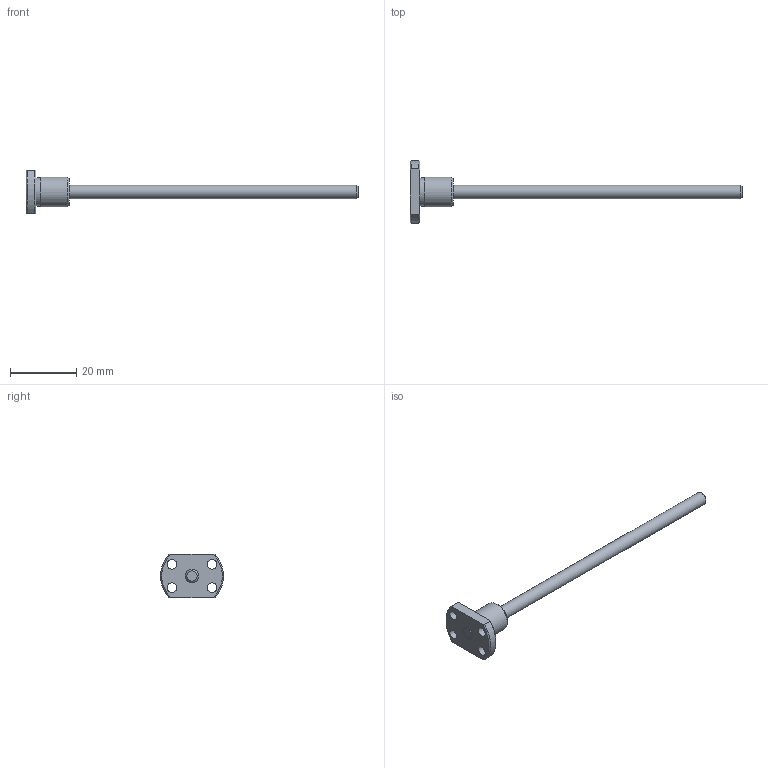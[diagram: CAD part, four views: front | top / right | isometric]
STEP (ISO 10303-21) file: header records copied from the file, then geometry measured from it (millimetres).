
FILE_DESCRIPTION( ( 'STEP AP203' ), '1' );
FILE_NAME( 'e:/temp/worker_93/temp/exporttempdir_3516_688_HJ5iS/format_0/SR0401K-100R100C7(0).stp', '2021-10-19T03:49:43', ( 'License CC BY-ND 4.0' ), ( 'CADENAS' ), ' ', 'PARTsolutions', ' ' );
FILE_SCHEMA( ( 'CONFIG_CONTROL_DESIGN' ) );
Length unit declared in the file: millimetre
Products named in the file (3): SR0401K-100R100C7(0); _SR0401K_shaft; _SR0401K_nut
Assembly tree (2 placements, depth 2):
  SR0401K-100R100C7(0)
    _SR0401K_shaft
    _SR0401K_nut
Bounding box: 100 x 18.93 x 13 mm (x, y, z)
Volume: 2310.5 mm3; surface area: 2360.9 mm2
Topology: 2 solids, 2 shells, 25 faces, 54 edges, 35 vertices
Faces by surface type: cylinder 10, plane 8, cone 7
Full cylindrical faces by diameter (mm): 2.9 x4, 4 x2, 8.6 x1, 9 x1
Entity records: 772 total; most frequent: CARTESIAN_POINT 130, DIRECTION 118, ORIENTED_EDGE 86, AXIS2_PLACEMENT_3D 55, EDGE_LOOP 48, EDGE_CURVE 43, VERTEX_POINT 35, FACE_OUTER_BOUND 33
